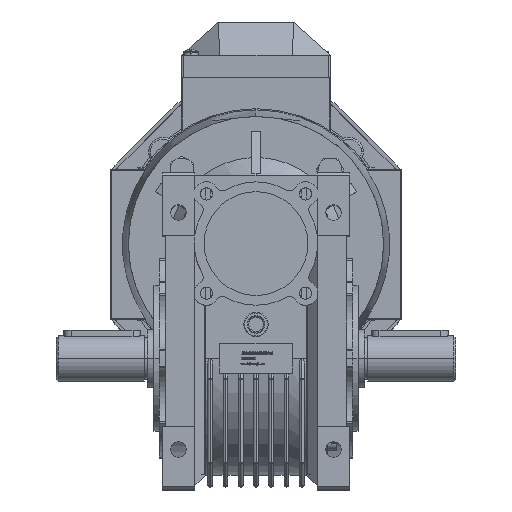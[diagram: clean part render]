
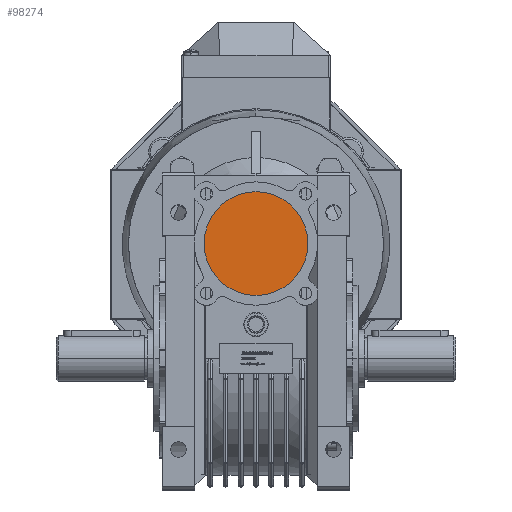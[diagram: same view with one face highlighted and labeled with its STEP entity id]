
A CAD part, top view. The second image highlights one B-rep face of the part: STEP entity #98274.
In plain terms, the highlighted planar face has unit normal (0, 0, 1).
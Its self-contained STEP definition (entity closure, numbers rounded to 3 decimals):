
#17017 = CARTESIAN_POINT ( 'NONE',  ( 28.475, 63., 71.33 ) ) ;
#19147 = AXIS2_PLACEMENT_3D ( 'NONE', #30184, #93362, #57512 ) ;
#27947 = EDGE_LOOP ( 'NONE', ( #63885, #56216 ) ) ;
#28386 = EDGE_CURVE ( 'NONE', #59907, #107170, #65132, .T. ) ;
#30184 = CARTESIAN_POINT ( 'NONE',  ( 0., 63., 71.33 ) ) ;
#31350 = PLANE ( 'NONE',  #19147 ) ;
#33760 = DIRECTION ( 'NONE',  ( 0., 0., 1. ) ) ;
#38886 = DIRECTION ( 'NONE',  ( 1., 0., 0. ) ) ;
#54953 = AXIS2_PLACEMENT_3D ( 'NONE', #113305, #33760, #96151 ) ;
#56067 = DIRECTION ( 'NONE',  ( 0., 0., 1. ) ) ;
#56216 = ORIENTED_EDGE ( 'NONE', *, *, #28386, .T. ) ;
#57512 = DIRECTION ( 'NONE',  ( 1., 0., 0. ) ) ;
#59907 = VERTEX_POINT ( 'NONE', #83013 ) ;
#63885 = ORIENTED_EDGE ( 'NONE', *, *, #71996, .T. ) ;
#65132 = CIRCLE ( 'NONE', #78062, 28.475 ) ;
#71996 = EDGE_CURVE ( 'NONE', #107170, #59907, #76995, .T. ) ;
#74498 = FACE_OUTER_BOUND ( 'NONE', #27947, .T. ) ;
#76995 = CIRCLE ( 'NONE', #54953, 28.475 ) ;
#78062 = AXIS2_PLACEMENT_3D ( 'NONE', #109427, #56067, #38886 ) ;
#83013 = CARTESIAN_POINT ( 'NONE',  ( -28.475, 63., 71.33 ) ) ;
#93362 = DIRECTION ( 'NONE',  ( 0., 0., 1. ) ) ;
#96151 = DIRECTION ( 'NONE',  ( 1., 0., 0. ) ) ;
#98274 = ADVANCED_FACE ( 'NONE', ( #74498 ), #31350, .T. ) ;
#107170 = VERTEX_POINT ( 'NONE', #17017 ) ;
#109427 = CARTESIAN_POINT ( 'NONE',  ( 0., 63., 71.33 ) ) ;
#113305 = CARTESIAN_POINT ( 'NONE',  ( 0., 63., 71.33 ) ) ;
